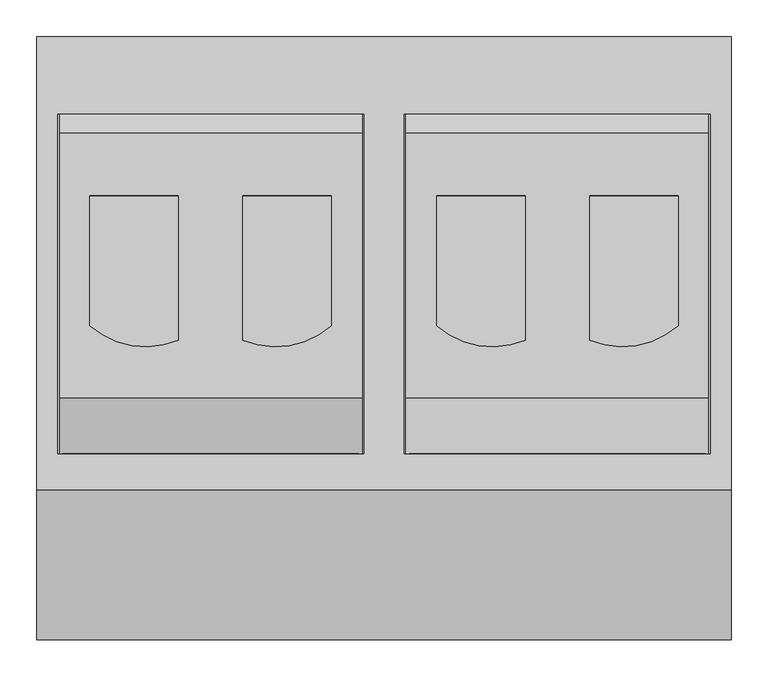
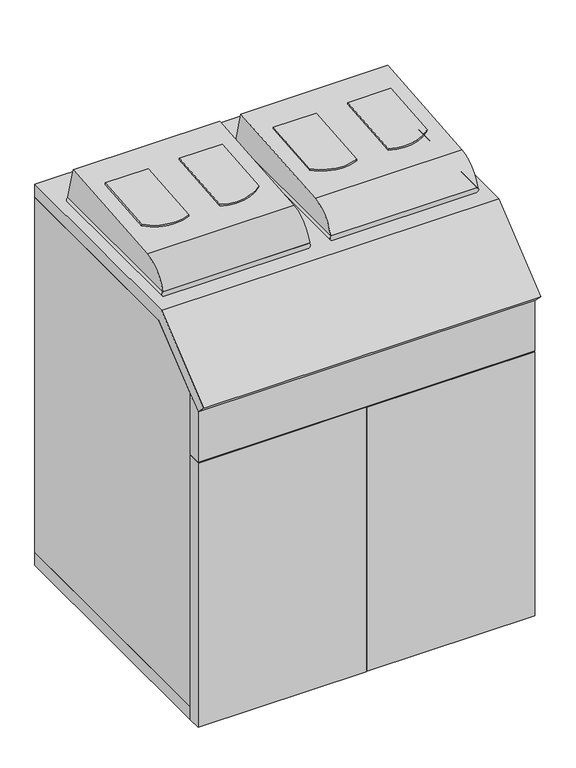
"""IFC4 building model written with IfcOpenShell, lengths in millimetres: proxy geometry, BIMHealth-Endoscope_Washer_Disinfector-LOD2A-v1 : BIMHealth-Endoscope_Washer_Disinfector-LOD2A-v1."""

from ifc_helpers import new_model, si_unit, point, frame, frame_2d, origin, place, context, project, spatial, polyline, circle_curve, trimmed, segment, composite_curve, outline, extrude, source, transform, mapped, element, save


def generic_models_1d7c5861(model_context):
    return source(origin(), model_context, "Body", "SweptSolid", [
        extrude(outline(composite_curve([segment(polyline([(36.8804341, 0.0), (36.8804341, -120.0), (-140.0000001, -120.0)]), True, "CONTINUOUS"), segment(trimmed(circle_curve(frame_2d((-52.5561749, -43.7593624)), 116.0131775), [point((-140.0000001, -120.0))], [point((-160.0, 0.0))], False, "CARTESIAN"), True, "CONTINUOUS"), segment(polyline([(-160.0, 0.0), (36.8804341, 0.0)]), True, "CONTINUOUS")], self_intersect=False)), frame((-191.300417, 123.2599071, 1264.0188612), z_axis=(0.0, -0.08715574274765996, 0.9961946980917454), x_axis=(0.0, 0.9961946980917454, 0.08715574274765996)), (0.0, 0.0, 1.0), 5.0),
        extrude(outline(composite_curve([segment(polyline([(36.8804341, 87.399166), (-160.0, 87.399166)]), True, "CONTINUOUS"), segment(trimmed(circle_curve(frame_2d((-52.5561749, 131.1585284)), 116.0131775), [point((-160.0, 87.399166))], [point((-140.0000001, 207.399166))], False, "CARTESIAN"), True, "CONTINUOUS"), segment(polyline([(-140.0000001, 207.399166), (36.8804341, 207.399166), (36.8804341, 87.399166)]), True, "CONTINUOUS")], self_intersect=False)), frame((-191.300417, 123.2599071, 1264.0188612), z_axis=(0.0, -0.08715574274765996, 0.9961946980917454), x_axis=(0.0, 0.9961946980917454, 0.08715574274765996)), (0.0, 0.0, 1.0), 5.0),
        extrude(outline(composite_curve([segment(polyline([(244.1180955, 1274.5925826), (270.0, 1178.0), (-190.0, 1178.0)]), True, "CONTINUOUS"), segment(trimmed(circle_curve(frame_2d((-107.0847411, 1158.3226056)), 85.2181906), [point((-190.0, 1178.0))], [point((-114.5119958, 1243.2165152))], False, "CARTESIAN"), True, "CONTINUOUS"), segment(polyline([(-114.5119958, 1243.2165152), (244.1180955, 1274.5925826)]), True, "CONTINUOUS")], self_intersect=False)), frame((-439.5, 0.0, 0.0), z_axis=(1.0, 0.0, 0.0), x_axis=(0.0, 1.0, 0.0)), (0.0, 0.0, 1.0), 410.0136676),
        extrude(outline(composite_curve([segment(polyline([(1163.0, -435.0), (1163.0, -35.0)]), True, "CONTINUOUS"), segment(trimmed(circle_curve(frame_2d((1170.5, -35.0)), 7.5), [point((1163.0, -35.0))], [point((1178.0, -35.0))], False, "CARTESIAN"), True, "CONTINUOUS"), segment(polyline([(1178.0, -35.0), (1178.0, -435.0)]), True, "CONTINUOUS"), segment(trimmed(circle_curve(frame_2d((1170.5, -435.0)), 7.5), [point((1178.0, -435.0))], [point((1163.0, -435.0))], False, "CARTESIAN"), True, "CONTINUOUS")], self_intersect=False)), frame((0.0, -190.0, 0.0), z_axis=(0.0, 1.0, 0.0), x_axis=(0.0, 0.0, 1.0)), (0.0, 0.0, 1.0), 460.0),
        extrude(outline(composite_curve([segment(polyline([(120.0, 0.0), (120.0, -196.8804341)]), True, "CONTINUOUS"), segment(trimmed(circle_curve(frame_2d((76.2406376, -89.436609)), 116.0131775), [point((120.0, -196.8804341))], [point((0.0, -176.8804342))], False, "CARTESIAN"), True, "CONTINUOUS"), segment(polyline([(0.0, -176.8804342), (0.0, 0.0), (120.0, 0.0)]), True, "CONTINUOUS")], self_intersect=False)), frame((71.300417, 160.0, 1267.2332029), z_axis=(0.0, -0.08715574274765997, 0.9961946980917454), x_axis=(1.0, 0.0, 0.0)), (0.0, 0.0, 1.0), 5.0),
        extrude(outline(composite_curve([segment(polyline([(207.399166, 0.0), (327.399166, 0.0), (327.399166, -176.8804342)]), True, "CONTINUOUS"), segment(trimmed(circle_curve(frame_2d((251.1585284, -89.436609)), 116.0131775), [point((327.399166, -176.8804342))], [point((207.399166, -196.8804341))], False, "CARTESIAN"), True, "CONTINUOUS"), segment(polyline([(207.399166, -196.8804341), (207.399166, 0.0)]), True, "CONTINUOUS")], self_intersect=False)), frame((71.300417, 160.0, 1267.2332029), z_axis=(0.0, -0.08715574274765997, 0.9961946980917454), x_axis=(1.0, 0.0, 0.0)), (0.0, 0.0, 1.0), 5.0),
        extrude(outline(composite_curve([segment(polyline([(244.1180955, 1274.5925826), (270.0, 1178.0), (-190.0, 1178.0)]), True, "CONTINUOUS"), segment(trimmed(circle_curve(frame_2d((-107.0847411, 1158.3226056)), 85.2181906), [point((-190.0, 1178.0))], [point((-114.5119958, 1243.2165152))], False, "CARTESIAN"), True, "CONTINUOUS"), segment(polyline([(-114.5119958, 1243.2165152), (244.1180955, 1274.5925826)]), True, "CONTINUOUS")], self_intersect=False)), frame((29.4863324, 0.0, 0.0), z_axis=(1.0, 0.0, 0.0), x_axis=(0.0, 1.0, 0.0)), (0.0, 0.0, 1.0), 410.0136676),
        extrude(outline(composite_curve([segment(trimmed(circle_curve(frame_2d((1170.5, 435.0)), 7.5), [point((1163.0, 435.0))], [point((1178.0, 435.0))], False, "CARTESIAN"), True, "CONTINUOUS"), segment(polyline([(1178.0, 435.0), (1178.0, 35.0)]), True, "CONTINUOUS"), segment(trimmed(circle_curve(frame_2d((1170.5, 35.0)), 7.5), [point((1178.0, 35.0))], [point((1163.0, 35.0))], False, "CARTESIAN"), True, "CONTINUOUS"), segment(polyline([(1163.0, 35.0), (1163.0, 435.0)]), True, "CONTINUOUS")], self_intersect=False)), frame((0.0, -190.0, 0.0), z_axis=(0.0, 1.0, 0.0), x_axis=(0.0, 0.0, 1.0)), (0.0, 0.0, 1.0), 460.0),
        extrude(outline(polyline([(-376.1759076, 821.0463576), (-414.1759076, 821.0463576), (-414.1759076, 969.37066), (-376.1759076, 1000.3243024), (-376.1759076, 821.0463576)])), frame((-470.5, 0.0, 0.0), z_axis=(1.0, 0.0, 0.0), x_axis=(0.0, 1.0, 0.0)), (0.0, 0.0, 1.0), 941.0),
        extrude(outline(polyline([(-415.241947, 970.1779944), (-442.251939, 997.1879864), (-238.6941011, 1163.0), (374.8240924, 1163.0), (374.8240924, 1125.0), (-225.1759076, 1125.0), (-415.241947, 970.1779944)])), frame((-470.5, 0.0, 0.0), z_axis=(1.0, 0.0, 0.0), x_axis=(0.0, 1.0, 0.0)), (0.0, 0.0, 1.0), 941.0),
        extrude(outline(polyline([(-0.5, -376.1759076), (-0.5, -414.1759076), (-470.5, -414.1759076), (-470.5, -376.1759076), (-0.5, -376.1759076)])), frame((0.0, 0.0, 38.0), z_axis=(0.0, 0.0, 1.0), x_axis=(1.0, 0.0, 0.0)), (0.0, 0.0, 1.0), 780.0),
        extrude(outline(polyline([(470.5, -376.1759076), (470.5, -414.1759076), (0.5, -414.1759076), (0.5, -376.1759076), (470.5, -376.1759076)])), frame((0.0, 0.0, 38.0), z_axis=(0.0, 0.0, 1.0), x_axis=(1.0, 0.0, 0.0)), (0.0, 0.0, 1.0), 780.0),
        extrude(outline(polyline([(374.8240924, 1125.0), (374.8240924, 76.0), (-376.1759076, 76.0), (-376.1759076, 1002.0), (-225.1759076, 1125.0), (374.8240924, 1125.0)])), frame((-470.5, 0.0, 0.0), z_axis=(1.0, 0.0, 0.0), x_axis=(0.0, 1.0, 0.0)), (0.0, 0.0, 1.0), 941.0),
        extrude(outline(polyline([(470.5, -376.1759076), (-470.5, -376.1759076), (-470.5, 374.8240924), (470.5, 374.8240924), (470.5, -376.1759076)])), frame((0.0, 0.0, 38.0), z_axis=(0.0, 0.0, 1.0), x_axis=(1.0, 0.0, 0.0)), (0.0, 0.0, 1.0), 38.0),
    ])


if __name__ == "__main__":
    model = new_model("IFC4")
    model_context = context("Model", 3, world=origin())
    ifc_project = project(units=[si_unit("LENGTHUNIT", "METRE", prefix="MILLI")], contexts=[model_context])
    site = spatial("IfcSite", under=ifc_project)
    building = spatial("IfcBuilding", under=site)
    placement = place(None, origin())
    generic_models_shape = generic_models_1d7c5861(model_context)
    element("IfcBuildingElementProxy", 1, Name="BIMHealth-Endoscope_Washer_Disinfector-LOD2A-v1 : BIMHealth-Endoscope_Washer_Disinfector-LOD2A-v1", ObjectType="BIMHealth-Endoscope_Washer_Disinfector-LOD2A-v1 : BIMHealth-Endoscope_Washer_Disinfector-LOD2A-v1", at=placement, inside=building, context=model_context, shape_type="MappedRepresentation", body=[
        mapped(generic_models_shape, transform((0.0, 0.0, 0.0), x_axis=(1.0, 0.0, 0.0), y_axis=(0.0, 1.0, 0.0), z_axis=(0.0, 0.0, 1.0))),
    ])
    save(model, "model.ifc")
